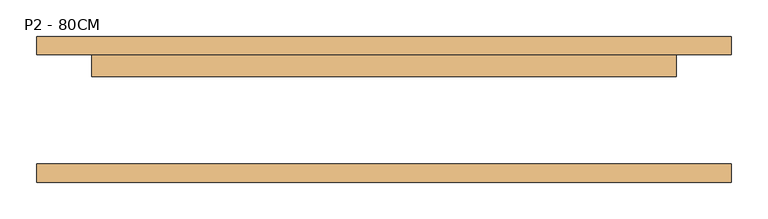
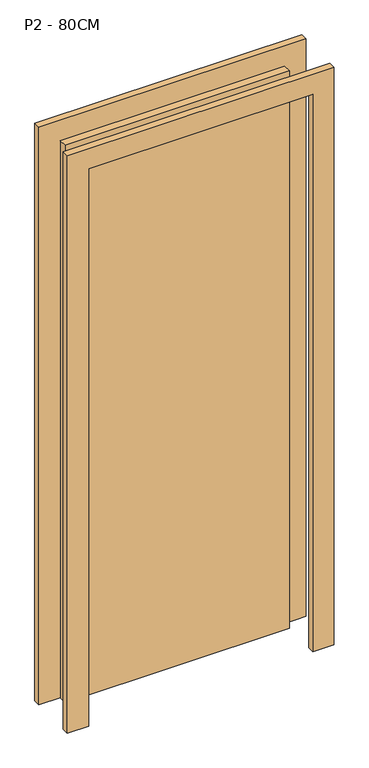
"""IFC4 building model written with IfcOpenShell, lengths in millimetres: door geometry, M_Folha única1 : P2 - 80CM."""

from ifc_helpers import new_model, si_unit, frame, origin, origin_with_axes, place, context, project, spatial, polyline, outline, extrude, source, transform, mapped, element, save


def p2_80cm_083652d6(model_context):
    return source(origin(), model_context, "Body", "SweptSolid", [
        extrude(outline(polyline([(2176.0, -476.0), (0.0, -476.0), (0.0, -400.0), (2100.0, -400.0), (2100.0, 400.0), (0.0, 400.0), (0.0, 476.0), (2176.0, 476.0), (2176.0, -476.0)])), frame((0.0, 75.0, 0.0), z_axis=(0.0, 1.0, 0.0), x_axis=(0.0, 0.0, 1.0)), (0.0, 0.0, 1.0), 25.0),
        extrude(outline(polyline([(2176.0, 476.0), (2176.0, -476.0), (0.0, -476.0), (0.0, -400.0), (2100.0, -400.0), (2100.0, 400.0), (0.0, 400.0), (0.0, 476.0), (2176.0, 476.0)])), frame((0.0, -100.0, 0.0), z_axis=(0.0, 1.0, 0.0), x_axis=(0.0, 0.0, 1.0)), (0.0, 0.0, 1.0), 25.0),
        extrude(outline(polyline([(400.0, 45.0), (-400.0, 45.0), (-400.0, 75.0), (400.0, 75.0), (400.0, 45.0)])), origin_with_axes(), (0.0, 0.0, 1.0), 2100.0),
    ])


if __name__ == "__main__":
    model = new_model("IFC4")
    model_context = context("Model", 3, world=origin())
    ifc_project = project(units=[si_unit("LENGTHUNIT", "METRE", prefix="MILLI")], contexts=[model_context])
    site = spatial("IfcSite", under=ifc_project)
    building = spatial("IfcBuilding", under=site)
    placement = place(None, origin())
    p2_80cm_shape = p2_80cm_083652d6(model_context)
    element("IfcDoor", 1, ObjectType="M_Folha única1 : P2 - 80CM", at=placement, inside=building, context=model_context, shape_type="MappedRepresentation", body=[
        mapped(p2_80cm_shape, transform((0.0, 0.0, 0.0), x_axis=(1.0, 0.0, 0.0), y_axis=(0.0, 1.0, 0.0), z_axis=(0.0, 0.0, 1.0))),
    ])
    save(model, "model.ifc")
